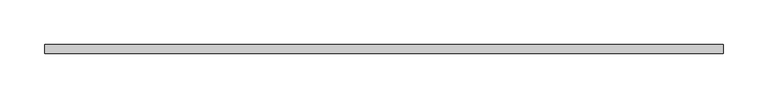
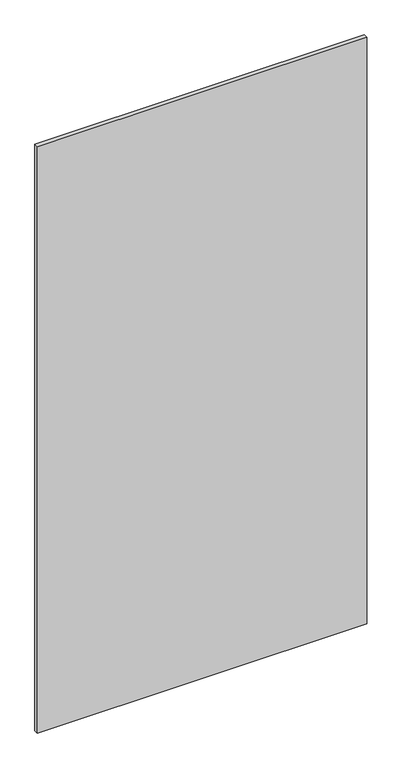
"""IFC4 building model written with IfcOpenShell, lengths in millimetres: plate geometry, システム パネル : 標準."""

from ifc_helpers import new_model, si_unit, origin, origin_with_axes, place, context, project, spatial, polyline, outline, extrude, source, transform, mapped, element, save


def plate_d9f6aecc(model_context):
    return source(origin(), model_context, "Body", "SweptSolid", [
        extrude(outline(polyline([(380.0, -5.0), (-380.0, -5.0), (-380.0, 5.0), (380.0, 5.0), (380.0, -5.0)])), origin_with_axes(), (0.0, 0.0, 1.0), 1430.0),
    ])


if __name__ == "__main__":
    model = new_model("IFC4")
    model_context = context("Model", 3, world=origin())
    ifc_project = project(units=[si_unit("LENGTHUNIT", "METRE", prefix="MILLI")], contexts=[model_context])
    site = spatial("IfcSite", under=ifc_project)
    building = spatial("IfcBuilding", under=site)
    placement = place(None, origin())
    plate_shape = plate_d9f6aecc(model_context)
    element("IfcPlate", 1, ObjectType="システム パネル : 標準", at=placement, inside=building, context=model_context, shape_type="MappedRepresentation", body=[
        mapped(plate_shape, transform((0.0, 0.0, 0.0), x_axis=(1.0, 0.0, 0.0), y_axis=(0.0, 1.0, 0.0), z_axis=(0.0, 0.0, 1.0))),
    ])
    save(model, "model.ifc")
